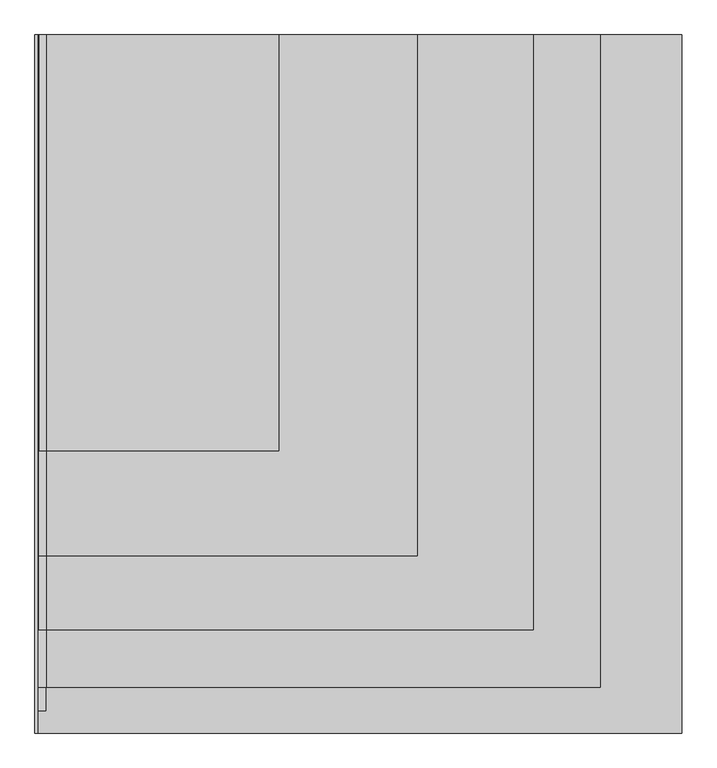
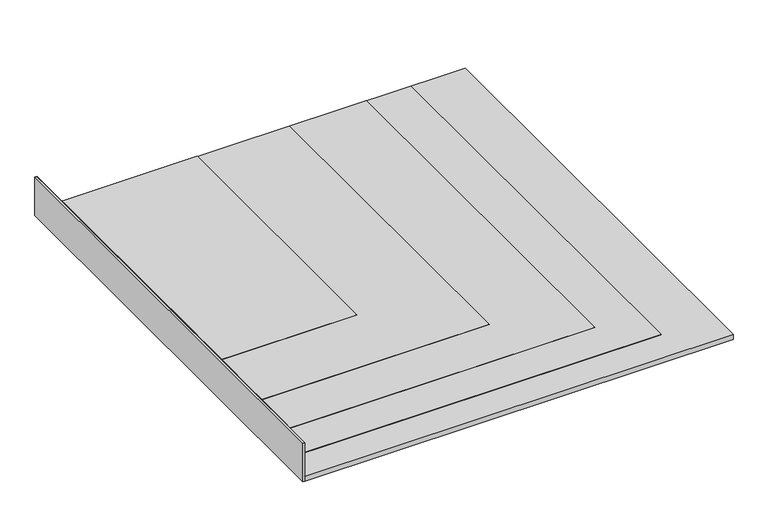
"""IFC4 building model written with IfcOpenShell, lengths in millimetres: proxy geometry, IMPER:IMPER:433934 : IMPER:IMPER:433934."""

from ifc_helpers import new_model, si_unit, frame, origin, place, context, project, spatial, polyline, outline, extrude, source, transform, mapped, element, save


def generic_models_bf98b7bc(model_context):
    return source(origin(), model_context, "Body", "SweptSolid", [
        extrude(outline(polyline([(-351.9704105, 145.8700195), (-341.9704105, 145.8700195), (-341.9704105, -2474.1299805), (-351.9704105, -2474.1299805), (-351.9704105, 145.8700195)])), frame((0.0, 0.0, -2.523798), z_axis=(0.0, 0.0, 1.0), x_axis=(1.0, 0.0, 0.0)), (0.0, 0.0, 1.0), 230.0),
        extrude(outline(polyline([(60.7188427, -338.9704105), (30.476202, -308.7277698), (30.476202, 563.3294557), (31.476202, 563.3294557), (31.476202, -308.3135563), (61.1330563, -337.9704105), (227.476202, -337.9704105), (227.476202, -338.9704105), (60.7188427, -338.9704105)])), frame((0.0, -1415.2413427, 0.0), z_axis=(0.0, 1.0, 0.0), x_axis=(0.0, 0.0, 1.0)), (0.0, 0.0, 1.0), 1561.1113622),
        extrude(outline(polyline([(60.3046291, -339.9704105), (29.476202, -309.1419834), (29.476202, 1083.1217224), (30.476202, 1083.1217224), (30.476202, -308.7277698), (60.7188427, -338.9704105), (227.476202, -338.9704105), (227.476202, -339.9704105), (60.3046291, -339.9704105)])), frame((0.0, -1808.3727269, 0.0), z_axis=(0.0, 1.0, 0.0), x_axis=(0.0, 0.0, 1.0)), (0.0, 0.0, 1.0), 1954.2427464),
        extrude(outline(polyline([(29.476202, 1518.0295895), (29.476202, -309.1419834), (60.3046291, -339.9704105), (227.476202, -339.9704105), (227.476202, -340.9704105), (59.8904156, -340.9704105), (28.476202, -309.5561969), (28.476202, 1518.0295895), (29.476202, 1518.0295895)])), frame((0.0, -2086.0946366, 0.0), z_axis=(0.0, 1.0, 0.0), x_axis=(0.0, 0.0, 1.0)), (0.0, 0.0, 1.0), 2231.9646561),
        extrude(outline(polyline([(28.476202, -340.9704105), (28.476202, -310.9704105), (58.476202, -340.9704105), (28.476202, -340.9704105)])), frame((0.0, -2391.1469338, 0.0), z_axis=(0.0, 1.0, 0.0), x_axis=(0.0, 0.0, 1.0)), (0.0, 0.0, 1.0), 2537.0169532),
        extrude(outline(polyline([(27.476202, 1769.6731136), (28.476202, 1769.6731136), (28.476202, -309.5561969), (59.8904156, -340.9704105), (227.476202, -340.9704105), (227.476202, -341.9704105), (27.476202, -341.9704105), (27.476202, 1769.6731136)]), holes=[polyline([(58.476202, -340.9704105), (28.476202, -310.9704105), (28.476202, -340.9704105), (58.476202, -340.9704105)])]), frame((0.0, -2301.4922334, 0.0), z_axis=(0.0, 1.0, 0.0), x_axis=(0.0, 0.0, 1.0)), (0.0, 0.0, 1.0), 2447.3622528),
        extrude(outline(polyline([(-341.9704105, 145.8700195), (2075.2481583, 145.8700195), (2075.2481583, -2474.1299805), (-341.9704105, -2474.1299805), (-341.9704105, 145.8700195)])), frame((0.0, 0.0, -2.523798), z_axis=(0.0, 0.0, 1.0), x_axis=(1.0, 0.0, 0.0)), (0.0, 0.0, 1.0), 30.0),
    ])


if __name__ == "__main__":
    model = new_model("IFC4")
    model_context = context("Model", 3, world=origin())
    ifc_project = project(units=[si_unit("LENGTHUNIT", "METRE", prefix="MILLI")], contexts=[model_context])
    site = spatial("IfcSite", under=ifc_project)
    building = spatial("IfcBuilding", under=site)
    placement = place(None, origin())
    generic_models_shape = generic_models_bf98b7bc(model_context)
    element("IfcBuildingElementProxy", 1, Name="IMPER:IMPER:433934 : IMPER:IMPER:433934", ObjectType="IMPER:IMPER:433934 : IMPER:IMPER:433934", at=placement, inside=building, context=model_context, shape_type="MappedRepresentation", body=[
        mapped(generic_models_shape, transform((0.0, 0.0, 0.0), x_axis=(1.0, 0.0, 0.0), y_axis=(0.0, 1.0, 0.0), z_axis=(0.0, 0.0, 1.0))),
    ])
    save(model, "model.ifc")
